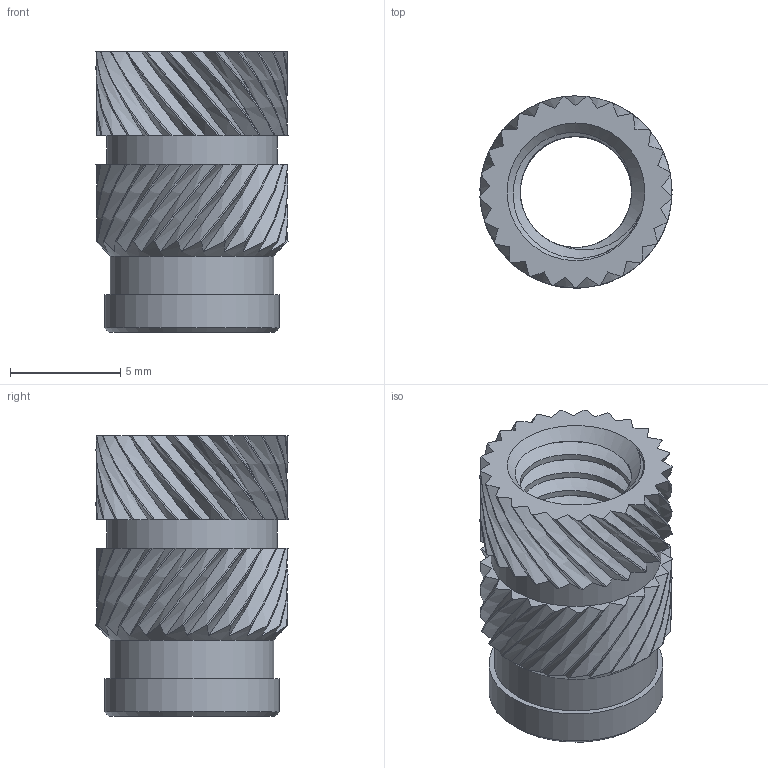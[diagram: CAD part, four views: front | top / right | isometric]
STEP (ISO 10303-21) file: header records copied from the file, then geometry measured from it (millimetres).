
FILE_DESCRIPTION(/* description */ (''),/* implementation_level */ '2;1');
FILE_NAME(/* name */ 'Insert_M6 v2.step',/* time_stamp */ '2023-05-16T15:19:21+02:00',/* author */ (''),/* organization */ (''),/* preprocessor_version */ 'ST-DEVELOPER v19.2',/* originating_system */ 'Autodesk Translation Framework v12.4.0.73',/* authorisation */ '');
FILE_SCHEMA (('AUTOMOTIVE_DESIGN { 1 0 10303 214 3 1 1 }'));
Length unit declared in the file: millimetre
Products named in the file (1): Insert_M6
Bounding box: 8.69 x 8.7 x 12.7 mm (x, y, z)
Volume: 337.6 mm3; surface area: 852.1 mm2
Topology: 1 solids, 12 shells, 381 faces, 1061 edges, 707 vertices
Faces by surface type: bspline 203, plane 94, cylinder 80, cone 4
Full cylindrical faces by diameter (mm): 5.035 x6, 6.147 x3, 7.4 x1, 7.7 x1, 7.9 x1
Entity records: 17014 total; most frequent: CARTESIAN_POINT 8912, ORIENTED_EDGE 2122, EDGE_CURVE 1061, DIRECTION 920, VERTEX_POINT 707, B_SPLINE_CURVE_WITH_KNOTS 613, EDGE_LOOP 388, FACE_OUTER_BOUND 381
